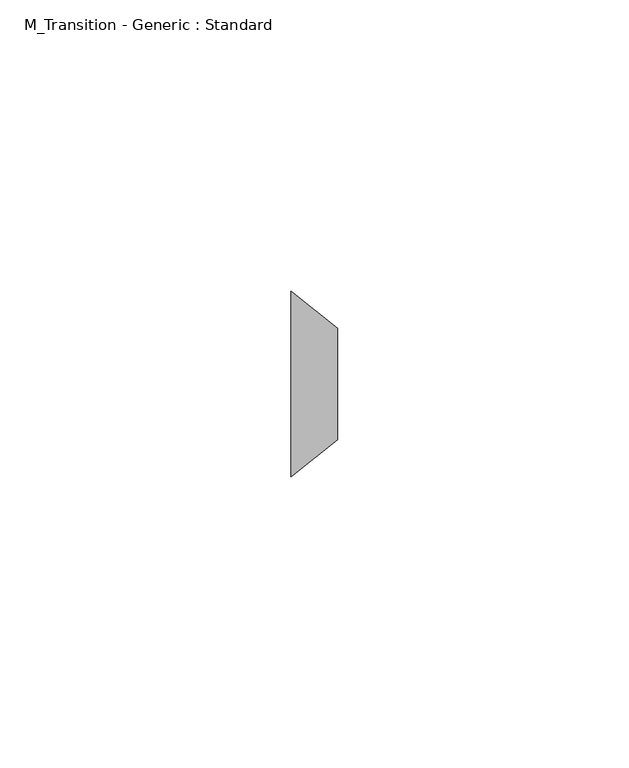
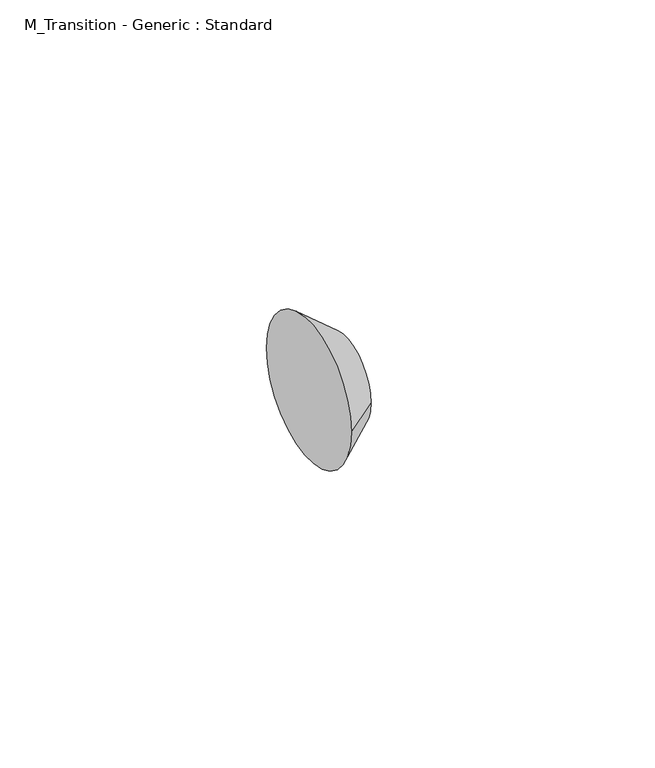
"""IFC4 building model written with IfcOpenShell, lengths in millimetres: pipe fitting geometry, M_Transition - Generic : Standard."""

import ifcopenshell
import ifcopenshell.guid

model = None  # the IFC model being written
_history = None  # IfcOwnerHistory: only IFC2X3 demands one
_inside = {}  # id of a spatial element -> (the spatial element, [elements in it])
_under = {}  # id of a project, library or spatial element -> (it, [spatial elements below it])
_declared = {}  # id of a project -> (the project, [libraries it declares])
_typed = {}  # id of a type object -> (the type object, [elements of that type])
_made_of = {}  # id of a material, layer set ... -> (it, [elements and type objects made of it])


def new_model(schema):
    """Start an empty IFC model of exactly this schema.

    Asked for "IFC4X3", IfcOpenShell would pick the latest addendum, in which some entities
    have other attributes; the version numbers below select the first issue.
    IFC2X3 requires an IfcOwnerHistory on every rooted entity: one is made here for all.
    """
    global model, _history
    if schema == "IFC4X3":
        model = ifcopenshell.file(schema_version=(4, 3, 0, 0))
    else:
        model = ifcopenshell.file(schema=schema)
    _inside.clear()
    _under.clear()
    _declared.clear()
    _typed.clear()
    _made_of.clear()
    _history = None
    if model.schema == "IFC2X3":
        org = make("IfcOrganization", Name="unknown")
        user = make(
            "IfcPersonAndOrganization",
            ThePerson=make("IfcPerson", FamilyName="unknown"),
            TheOrganization=org,
        )
        app = make(
            "IfcApplication",
            ApplicationDeveloper=org,
            Version="unknown",
            ApplicationFullName="unknown",
            ApplicationIdentifier="unknown",
        )
        _history = make(
            "IfcOwnerHistory",
            OwningUser=user,
            OwningApplication=app,
            ChangeAction="ADDED",
            CreationDate=0,
        )
    return model


def make(cls, **values):
    """One entity of the class cls with the attributes given. An attribute that is None is left unset."""
    return model.create_entity(
        cls, **{name: value for name, value in values.items() if value is not None}
    )


def rooted(cls, **values):
    """An entity with a GlobalId (a new one), such as an element, a storey or a relation."""
    return make(cls, GlobalId=ifcopenshell.guid.new(), OwnerHistory=_history, **values)


def si_unit(unit_type, name, prefix=None):
    """IfcSIUnit, for example si_unit("LENGTHUNIT", "METRE", prefix="MILLI")."""
    return make("IfcSIUnit", UnitType=unit_type, Prefix=prefix, Name=name)


def assignment(units):
    """IfcUnitAssignment: the units of a project."""
    return None if units is None else make("IfcUnitAssignment", Units=units)


def point(xyz):
    """IfcCartesianPoint."""
    return None if xyz is None else make("IfcCartesianPoint", Coordinates=xyz)


def direction(xyz):
    """IfcDirection."""
    return None if xyz is None else make("IfcDirection", DirectionRatios=xyz)


def frame(location, z_axis=None, x_axis=None):
    """IfcAxis2Placement3D, a coordinate frame: its origin and axes. An axis left out is left unset."""
    return make(
        "IfcAxis2Placement3D",
        Location=point(location),
        Axis=direction(z_axis),
        RefDirection=direction(x_axis),
    )


def origin():
    """The frame at (0, 0, 0) with its axes left unset."""
    return frame((0.0, 0.0, 0.0))


def place(relative_to, where):
    """IfcLocalPlacement: puts the frame where relative to a parent placement (None: the world)."""
    return make(
        "IfcLocalPlacement", PlacementRelTo=relative_to, RelativePlacement=where
    )


def context(
    kind, dimensions, precision=None, world=None, true_north=None, identifier=None
):
    """IfcGeometricRepresentationContext, for example the 3D "Model" context."""
    return make(
        "IfcGeometricRepresentationContext",
        ContextIdentifier=identifier,
        ContextType=kind,
        CoordinateSpaceDimension=dimensions,
        Precision=precision,
        WorldCoordinateSystem=world,
        TrueNorth=true_north,
    )


def project(units=None, contexts=None):
    """IfcProject with its units and contexts."""
    return rooted(
        "IfcProject",
        Name="project",
        RepresentationContexts=contexts,
        UnitsInContext=assignment(units),
    )


def spatial(cls, under=None, at=None, **own):
    """A site, building, storey or space (cls), placed at a placement, below another one or the project."""
    s = rooted(cls, ObjectPlacement=at, **own)
    if under is not None:
        _under.setdefault(under.id(), (under, []))[1].append(s)
    return s


def polyline(points):
    """IfcPolyline through the points."""
    return make("IfcPolyline", Points=[point(p) for p in points])


def circle_curve(where, radius):
    """IfcCircle in the frame where."""
    return make("IfcCircle", Position=where, Radius=radius)


def shape(context_of_items, identifier, shape_type, items):
    """IfcShapeRepresentation: the items that make up one representation, for example the "Body"."""
    return make(
        "IfcShapeRepresentation",
        ContextOfItems=context_of_items,
        RepresentationIdentifier=identifier,
        RepresentationType=shape_type,
        Items=items,
    )


def source(mapping_origin, context_of_items, identifier, shape_type, items):
    """IfcRepresentationMap: a shape defined once, which mapped items show again and again."""
    return make(
        "IfcRepresentationMap",
        MappingOrigin=mapping_origin,
        MappedRepresentation=shape(context_of_items, identifier, shape_type, items),
    )


def transform(
    local_origin,
    x_axis=None,
    y_axis=None,
    z_axis=None,
    scale=None,
    scale2=None,
    scale3=None,
    uniform=True,
):
    """IfcCartesianTransformationOperator3D, or its non-uniform kind. x_axis, y_axis, z_axis: its Axis1, 2, 3."""
    if uniform:
        return make(
            "IfcCartesianTransformationOperator3D",
            Axis1=direction(x_axis),
            Axis2=direction(y_axis),
            LocalOrigin=point(local_origin),
            Scale=scale,
            Axis3=direction(z_axis),
        )
    return make(
        "IfcCartesianTransformationOperator3DnonUniform",
        Axis1=direction(x_axis),
        Axis2=direction(y_axis),
        LocalOrigin=point(local_origin),
        Scale=scale,
        Axis3=direction(z_axis),
        Scale2=scale2,
        Scale3=scale3,
    )


def mapped(mapping_source, mapping_target):
    """IfcMappedItem: shows the shape of a source again, moved by a transform."""
    return make(
        "IfcMappedItem", MappingSource=mapping_source, MappingTarget=mapping_target
    )


def made_of(thing, what):
    """Note that an element or type object is made of a material, layer set ...; save() writes the relation."""
    if what is not None:
        _made_of.setdefault(what.id(), (what, []))[1].append(thing)
    return thing


def element(
    cls,
    number,
    at=None,
    inside=None,
    cuts=None,
    type_object=None,
    material=None,
    context=None,
    identifier="Body",
    shape_type=None,
    held_by="IfcProductDefinitionShape",
    body=None,
    shapes=None,
    **own,
):
    """One element of the class cls, such as IfcWall. Its Tag is "e" and its number.

    at: its placement. inside: the storey or other place that contains it. cuts: it is an
    opening in that element (IfcRelVoidsElement). A single representation is given by context,
    identifier, shape_type and body (its items); several are given by shapes. held_by: the class
    of the entity that holds the representations. save() writes the other relations.
    """
    e = rooted(cls, Tag="e%d" % number, ObjectPlacement=at, **own)
    if body is not None:
        shapes = [shape(context, identifier, shape_type, body)]
    if shapes is not None:
        e.Representation = make(held_by, Representations=shapes)
    if inside is not None:
        _inside.setdefault(inside.id(), (inside, []))[1].append(e)
    if cuts is not None:
        rooted(
            "IfcRelVoidsElement", RelatingBuildingElement=cuts, RelatedOpeningElement=e
        )
    if type_object is not None:
        _typed.setdefault(type_object.id(), (type_object, []))[1].append(e)
    return made_of(e, material)


def aggregate(whole, parts):
    """IfcRelAggregates: a whole, such as a stair, and the parts it consists of."""
    return rooted("IfcRelAggregates", RelatingObject=whole, RelatedObjects=parts)


def save(model, path):
    """Write the relations noted so far, then the file.

    IfcRelAggregates (storeys below a building ...), IfcRelContainedInSpatialStructure (elements
    in a storey), IfcRelDefinesByType, IfcRelAssociatesMaterial and IfcRelDeclares: one each for
    every whole, place, type object, material and project.
    """
    for whole, parts in _under.values():
        aggregate(whole, parts)
    for where, things in _inside.values():
        rooted(
            "IfcRelContainedInSpatialStructure",
            RelatedElements=things,
            RelatingStructure=where,
        )
    for kind, things in _typed.values():
        rooted("IfcRelDefinesByType", RelatedObjects=things, RelatingType=kind)
    for what, things in _made_of.values():
        rooted("IfcRelAssociatesMaterial", RelatedObjects=things, RelatingMaterial=what)
    for by, libraries in _declared.values():
        rooted("IfcRelDeclares", RelatingContext=by, RelatedDefinitions=libraries)
    model.write(path)


def plane_surface(at):
    """IfcPlane: the flat surface through the origin of the frame at, square to its z axis."""
    return make("IfcPlane", Position=at)


def revolved_surface(curve, axis_point, axis_direction):
    """IfcSurfaceOfRevolution: the curve turned about the line through axis_point along axis_direction."""
    return make(
        "IfcSurfaceOfRevolution",
        SweptCurve=make("IfcArbitraryOpenProfileDef", ProfileType="CURVE", Curve=curve),
        AxisPosition=make("IfcAxis1Placement", Location=point(axis_point), Axis=direction(axis_direction)),
    )


def advanced_brep(points, edges, surfaces, faces):
    """IfcAdvancedBrep: a solid bounded by faces that lie on surfaces and meet in shared edges.

    An edge is (start, end): straight between two places in points (the first is 0);
    or (start, end, curve); or (start, end, curve, False) where it runs against its curve.
    A face is (place in surfaces, loops), or (place, loops, False) where it looks against
    its surface's normal. A loop lists edges by number (the first is 1), with a minus sign
    where the edge is run from its end to its start. The first loop is the outer one.
    """
    corners = [point(p) for p in points]
    vertices = [make("IfcVertexPoint", VertexGeometry=c) for c in corners]
    made = []
    for start, end, *more in edges:
        made.append(
            make(
                "IfcEdgeCurve",
                EdgeStart=vertices[start],
                EdgeEnd=vertices[end],
                EdgeGeometry=more[0] if more else make("IfcPolyline", Points=[corners[start], corners[end]]),
                SameSense=more[1] if len(more) > 1 else True,
            )
        )
    hull = []
    for where, loops, *sense in faces:
        bounds = []
        for j, loop in enumerate(loops):
            ring = [make("IfcOrientedEdge", EdgeElement=made[abs(k) - 1], Orientation=k > 0) for k in loop]
            bounds.append(
                make(
                    "IfcFaceOuterBound" if j == 0 else "IfcFaceBound",
                    Bound=make("IfcEdgeLoop", EdgeList=ring),
                    Orientation=True,
                )
            )
        hull.append(make("IfcAdvancedFace", Bounds=bounds, FaceSurface=surfaces[where], SameSense=sense[0] if sense else True))
    return make("IfcAdvancedBrep", Outer=make("IfcClosedShell", CfsFaces=hull))


def m_transition_generic_standard_1c56dba2(model_context):
    return source(origin(), model_context, "Body", "AdvancedBrep", [
        advanced_brep(
        [(7.9375, -9.525, 0.0), (7.9375, 9.525, 0.0), (0.0, -15.875, 0.0), (0.0, 15.875, 0.0)],
        [
            (0, 1, circle_curve(frame((7.9375, 0.0, 0.0), z_axis=(1.0, 0.0, 0.0), x_axis=(0.0, -1.0, 0.0)), 9.525)),
            (1, 0, circle_curve(frame((7.9375, 0.0, 0.0), z_axis=(1.0, 0.0, 0.0), x_axis=(0.0, 1.0, 0.0)), 9.525)),
            (2, 3, circle_curve(frame((0.0, 0.0, 0.0), z_axis=(-1.0, 0.0, 0.0), x_axis=(0.0, 1.0, 0.0)), 15.875)),
            (3, 2, circle_curve(frame((0.0, 0.0, 0.0), z_axis=(-1.0, 0.0, 0.0), x_axis=(0.0, -1.0, 0.0)), 15.875)),
            (3, 1),
            (0, 2),
        ],
        [
            plane_surface(frame((7.9375, 0.0, 0.0), z_axis=(1.0, 0.0, 0.0), x_axis=(0.0, 0.0, -1.0))),
            plane_surface(frame((0.0, 0.0, 0.0), z_axis=(-1.0, 0.0, 0.0), x_axis=(0.0, 0.0, -1.0))),
            revolved_surface(polyline([(7.9375, -9.525, 0.0), (0.0, -15.875, 0.0)]), (19.84375, 0.0, 0.0), (-1.0, 0.0, 0.0)),
            revolved_surface(polyline([(7.9375, 9.525, 0.0), (0.0, 15.875, 0.0)]), (19.84375, 0.0, 0.0), (-1.0, 0.0, 0.0)),
        ],
        [
            (0, [[1, 2]]),
            (1, [[3, 4]]),
            (2, [[-4, 5, -1, 6]]),
            (3, [[-3, -6, -2, -5]]),
        ],
    ),
    ])


if __name__ == "__main__":
    model = new_model("IFC4")
    model_context = context("Model", 3, world=origin())
    ifc_project = project(units=[si_unit("LENGTHUNIT", "METRE", prefix="MILLI")], contexts=[model_context])
    site = spatial("IfcSite", under=ifc_project)
    building = spatial("IfcBuilding", under=site)
    placement = place(None, origin())
    m_transition_generic_standard_shape = m_transition_generic_standard_1c56dba2(model_context)
    element("IfcPipeFitting", 1, ObjectType="M_Transition - Generic : Standard", at=placement, inside=building, context=model_context, shape_type="MappedRepresentation", body=[
        mapped(m_transition_generic_standard_shape, transform((0.0, 0.0, 0.0), x_axis=(1.0, 0.0, 0.0), y_axis=(0.0, 1.0, 0.0), z_axis=(0.0, 0.0, 1.0))),
    ])
    save(model, "model.ifc")
